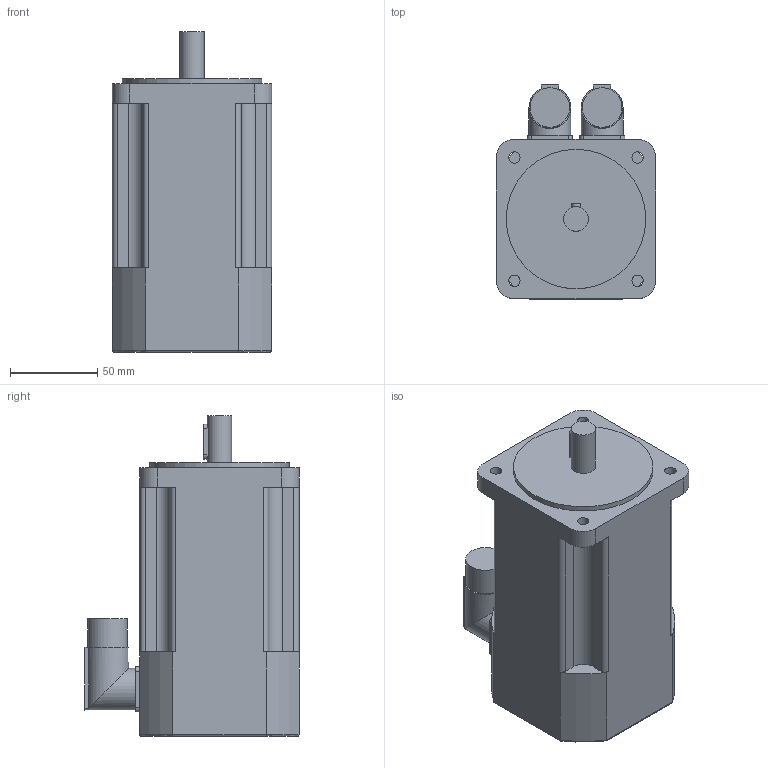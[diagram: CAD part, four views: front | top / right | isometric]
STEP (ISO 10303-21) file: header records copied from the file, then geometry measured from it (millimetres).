
FILE_DESCRIPTION(/* description */ (''),/* implementation_level */ '2;1');
FILE_NAME(/* name */ '\\Lafnas01\disegni\Archivi Lafert\3D\CAD 3D\MODELLI\Assiemi clienti\Serad\Modelli 3D Serad\B56Q\Encoder\Enc Without Brake\B56F6Qxx6ARx2033.ipt.stp',/* time_stamp */ '2015-09-07T10:50:13+02:00',/* author */ ('Pastrello Ylenia'),/* organization */ (''),/* preprocessor_version */ 'ST-DEVELOPER v15.6',/* originating_system */ 'Autodesk Inventor 2015',/* authorisation */ '');
FILE_SCHEMA (('AUTOMOTIVE_DESIGN { 1 0 10303 214 3 1 1 }'));
Length unit declared in the file: millimetre
Products named in the file (1): B56F6Qxx6ARx2033
Bounding box: 91.3 x 122.8 x 184 mm (x, y, z)
Volume: 1213203.1 mm3; surface area: 81155.7 mm2
Topology: 1 solids, 1 shells, 99 faces, 260 edges, 170 vertices
Faces by surface type: plane 49, cylinder 46, torus 4
Full cylindrical faces by diameter (mm): 6.5 x4, 14 x1, 22.7 x2, 24 x2, 80 x1
Entity records: 3176 total; most frequent: CARTESIAN_POINT 658, DIRECTION 534, ORIENTED_EDGE 500, EDGE_CURVE 250, AXIS2_PLACEMENT_3D 194, VERTEX_POINT 170, LINE 146, VECTOR 146
